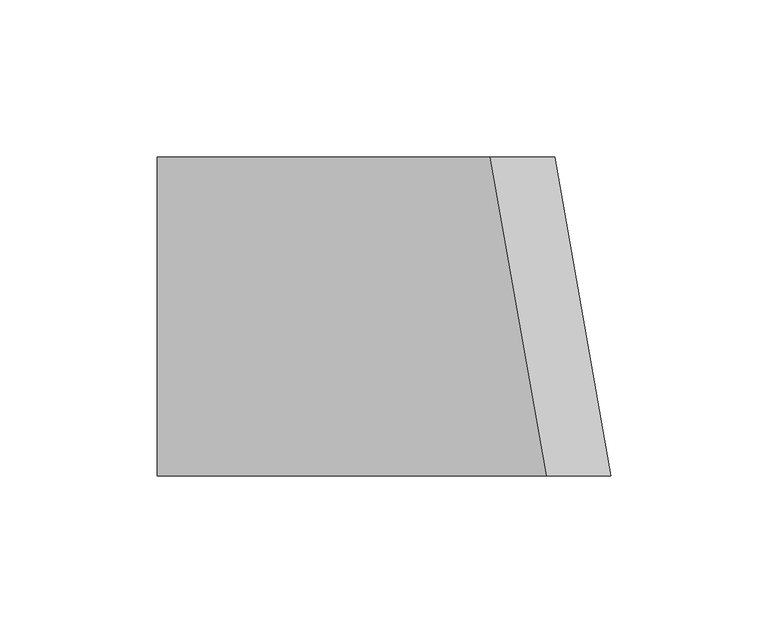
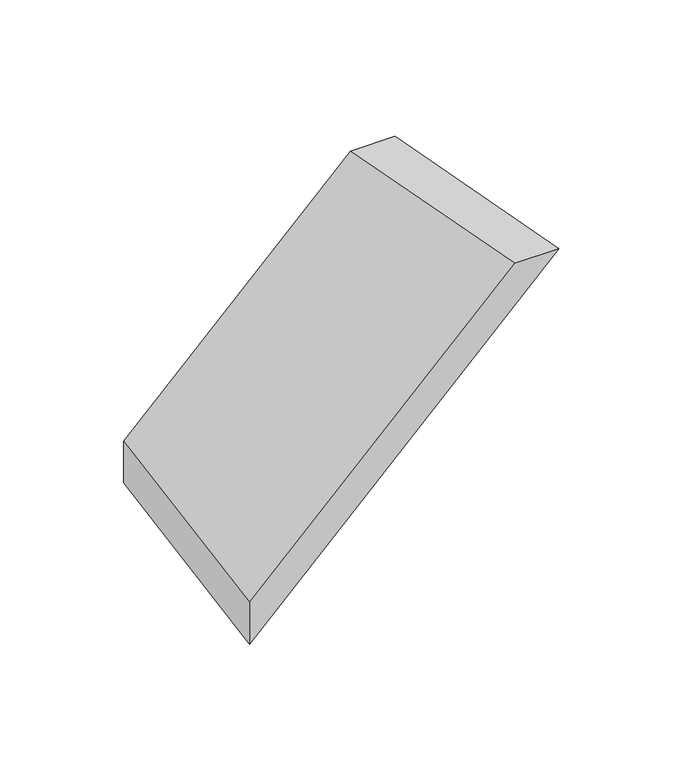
"""IFC4 building model written with IfcOpenShell, lengths in millimetres: proxy geometry, GRADIENT^TABLE 1_OCTAGON LEGS-APRON 3."""

from ifc_helpers import new_model, si_unit, origin, place, context, project, spatial, faceted_brep, source, transform, mapped, element, save


def generic_models_21e08ec8(model_context):
    return source(origin(), model_context, "Body", "Brep", [
        faceted_brep([(202.755703, 692.15, -38.1), (220.6705242, 590.55, -38.1), (76.2, 590.55, -182.5705242), (76.2, 692.15, -164.655703), (76.2, 590.55, -161.9823476), (76.2, 692.15, -144.0675264), (200.0823476, 590.55, -38.1), (182.1675264, 692.15, -38.1)], [[[0, 1, 2, 3]], [[3, 2, 4, 5]], [[2, 1, 6, 4]], [[5, 4, 6, 7]], [[1, 0, 7, 6]], [[0, 3, 5, 7]]]),
    ])


if __name__ == "__main__":
    model = new_model("IFC4")
    model_context = context("Model", 3, world=origin())
    ifc_project = project(units=[si_unit("LENGTHUNIT", "METRE", prefix="MILLI")], contexts=[model_context])
    site = spatial("IfcSite", under=ifc_project)
    building = spatial("IfcBuilding", under=site)
    placement = place(None, origin())
    generic_models_shape = generic_models_21e08ec8(model_context)
    element("IfcBuildingElementProxy", 1, Name="GRADIENT^TABLE 1_OCTAGON LEGS-APRON 3", ObjectType="GRADIENT^TABLE 1_OCTAGON LEGS-APRON 3", at=placement, inside=building, context=model_context, shape_type="MappedRepresentation", body=[
        mapped(generic_models_shape, transform((0.0, 0.0, 0.0), x_axis=(1.0, 0.0, 0.0), y_axis=(0.0, 1.0, 0.0), z_axis=(0.0, 0.0, 1.0))),
    ])
    save(model, "model.ifc")
